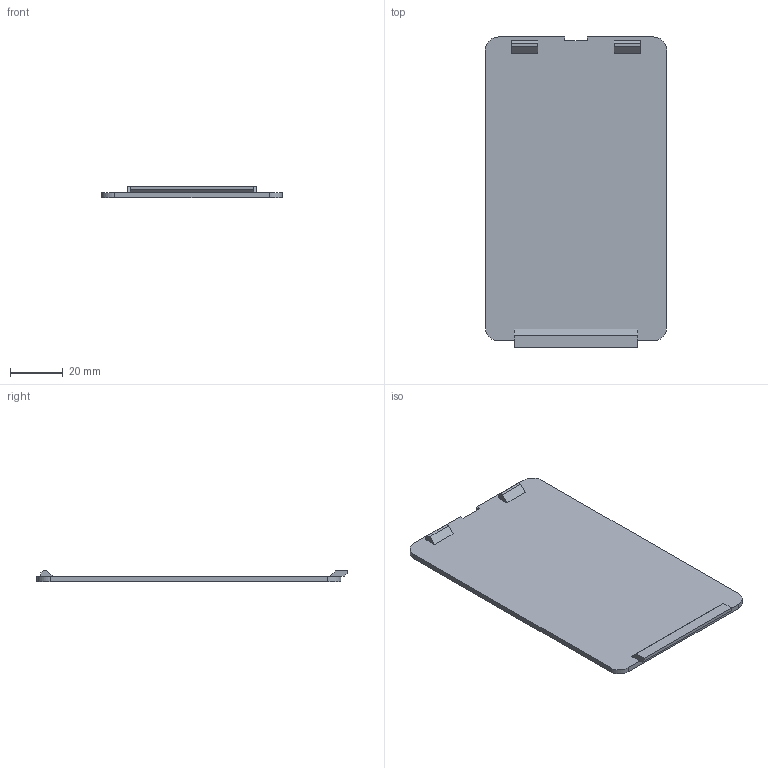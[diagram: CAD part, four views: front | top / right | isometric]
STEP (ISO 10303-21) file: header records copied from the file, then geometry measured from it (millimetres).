
FILE_DESCRIPTION(/* description */ ('STEP AP242','CAx-IF Rec.Pracs.---Representation and Presentation of Product Manufacturing Information (PMI)---4.0---2014-10-13','CAx-IF Rec.Pracs.---3D Tessellated Geometry---0.4---2014-09-14','2;1'),/* implementation_level */ '2;1');
FILE_NAME(/* name */ 'Base Shell - Left Cover Panel',/* time_stamp */ '2025-07-21T16:38:39Z',/* author */ (''),/* organization */ (''),/* preprocessor_version */ 'ST-DEVELOPER v20',/* originating_system */ 'ONSHAPE BY PTC INC, 1.201',/* authorisation */ ' ');
FILE_SCHEMA (('AP242_MANAGED_MODEL_BASED_3D_ENGINEERING_MIM_LF { 1 0 10303 442 1 1 4 }'));
Length unit declared in the file: metre
Products named in the file (1): Left Cover Panel
Bounding box: 69 x 118.1 x 4.5 mm (x, y, z)
Volume: 16657.9 mm3; surface area: 17122.2 mm2
Topology: 1 solids, 1 shells, 34 faces, 89 edges, 60 vertices
Faces by surface type: plane 30, cylinder 4
Entity records: 1059 total; most frequent: CARTESIAN_POINT 184, ORIENTED_EDGE 178, DIRECTION 167, EDGE_CURVE 89, LINE 81, VECTOR 81, VERTEX_POINT 60, AXIS2_PLACEMENT_3D 43
